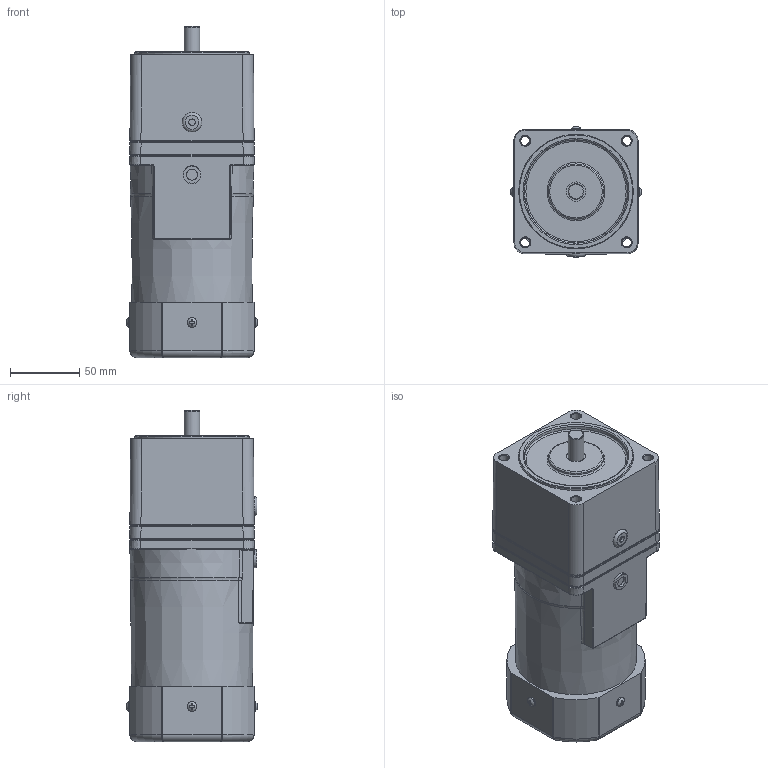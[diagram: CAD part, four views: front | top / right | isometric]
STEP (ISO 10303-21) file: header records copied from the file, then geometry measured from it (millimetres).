
FILE_DESCRIPTION (( 'STEP AP214' ), '1' );
FILE_NAME ('9CIDG¤±-90FP.STEP', '2025-01-13T08:08:36', ( '' ), ( '' ), 'SwSTEP 2.0', 'SolidWorks 2024', '' );
FILE_SCHEMA (( 'AUTOMOTIVE_DESIGN' ));
Length unit declared in the file: millimetre
Products named in the file (1): 9CIDGㅁ-90FP
Bounding box: 95.09 x 95.09 x 240 mm (x, y, z)
Volume: 1505895 mm3; surface area: 115691.1 mm2
Topology: 1 solids, 15 shells, 575 faces, 1396 edges, 892 vertices
Faces by surface type: plane 229, cylinder 218, cone 46, bspline 40, torus 36, sphere 6
Full cylindrical faces by diameter (mm): 4.8 x1, 6.1 x1, 6.5 x4, 7 x8, 8 x1, 10 x1, 11.39 x1, 13 x1, 14 x2, 40 x1, 83 x1, 83.1 x1
Entity records: 17798 total; most frequent: CARTESIAN_POINT 4670, DIRECTION 2799, ORIENTED_EDGE 2596, EDGE_CURVE 1298, AXIS2_PLACEMENT_3D 1102, VERTEX_POINT 875, EDGE_LOOP 705, FACE_OUTER_BOUND 609
